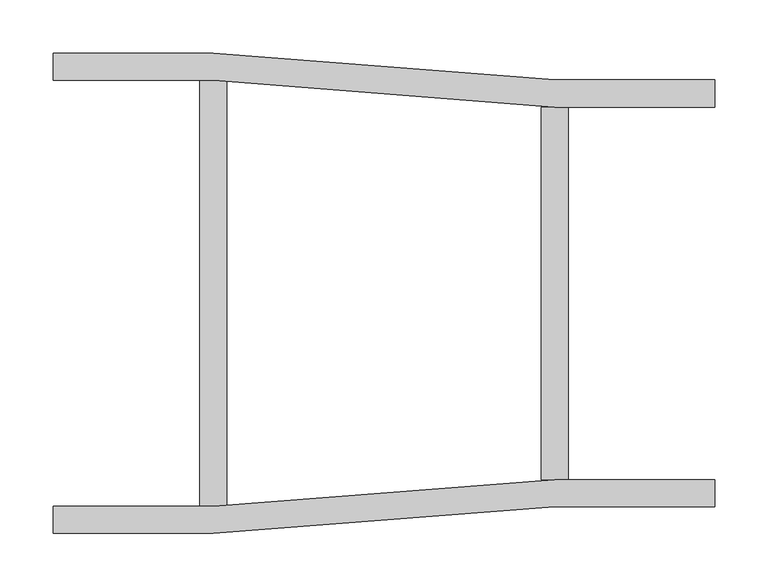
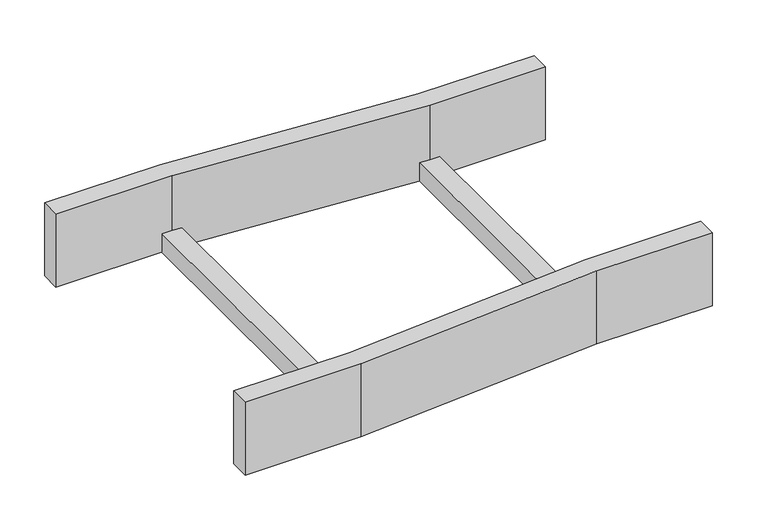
"""IFC4 building model written with IfcOpenShell, lengths in millimetres: cable carrier fitting geometry, BAKS_LD_RED_Straight reducer_RDSV : RDSVP_H100."""

from ifc_helpers import new_model, si_unit, frame, origin, place, context, project, spatial, polyline, outline, extrude, source, transform, mapped, element, save


def cable_carrier_fitting_e218c750(model_context):
    return source(origin(), model_context, "Body", "SweptSolid", [
        extrude(outline(polyline([(0.0, -225.0), (0.0, -199.6), (150.0, -199.6), (470.0, -174.6), (620.0, -174.6), (620.0, -200.0), (470.0, -200.0), (150.0, -225.0), (0.0, -225.0)])), frame((0.0, 0.0, -50.0), z_axis=(0.0, 0.0, 1.0), x_axis=(1.0, 0.0, 0.0)), (0.0, 0.0, 1.0), 100.0),
        extrude(outline(polyline([(0.0, 199.6), (0.0, 225.0), (150.0, 225.0), (470.0, 200.0), (620.0, 200.0), (620.0, 174.6), (470.0, 174.6), (150.0, 199.6), (0.0, 199.6)])), frame((0.0, 0.0, -50.0), z_axis=(0.0, 0.0, 1.0), x_axis=(1.0, 0.0, 0.0)), (0.0, 0.0, 1.0), 100.0),
        extrude(outline(polyline([(457.3, 174.6), (482.7, 174.6), (482.7, -174.6), (457.3, -174.6), (457.3, 174.6)])), frame((0.0, 0.0, -50.0), z_axis=(0.0, 0.0, 1.0), x_axis=(1.0, 0.0, 0.0)), (0.0, 0.0, 1.0), 25.4),
        extrude(outline(polyline([(137.3, 199.6), (162.7, 199.6), (162.7, -199.6), (137.3, -199.6), (137.3, 199.6)])), frame((0.0, 0.0, -50.0), z_axis=(0.0, 0.0, 1.0), x_axis=(1.0, 0.0, 0.0)), (0.0, 0.0, 1.0), 25.4),
    ])


if __name__ == "__main__":
    model = new_model("IFC4")
    model_context = context("Model", 3, world=origin())
    ifc_project = project(units=[si_unit("LENGTHUNIT", "METRE", prefix="MILLI")], contexts=[model_context])
    site = spatial("IfcSite", under=ifc_project)
    building = spatial("IfcBuilding", under=site)
    placement = place(None, origin())
    cable_carrier_fitting_shape = cable_carrier_fitting_e218c750(model_context)
    element("IfcCableCarrierFitting", 1, ObjectType="BAKS_LD_RED_Straight reducer_RDSV : RDSVP_H100", at=placement, inside=building, context=model_context, shape_type="MappedRepresentation", body=[
        mapped(cable_carrier_fitting_shape, transform((0.0, 0.0, 0.0), x_axis=(1.0, 0.0, 0.0), y_axis=(0.0, 1.0, 0.0), z_axis=(0.0, 0.0, 1.0))),
    ])
    save(model, "model.ifc")
